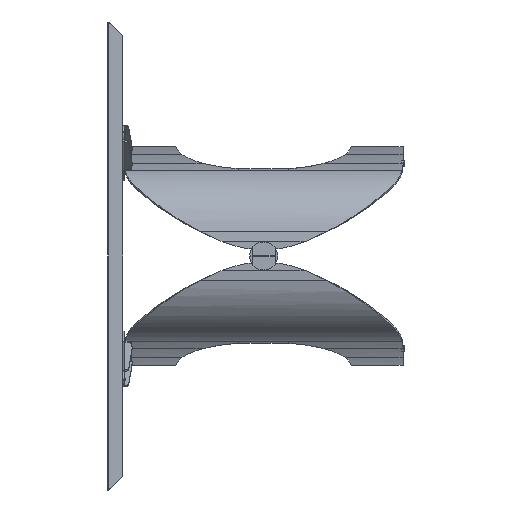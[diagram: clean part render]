
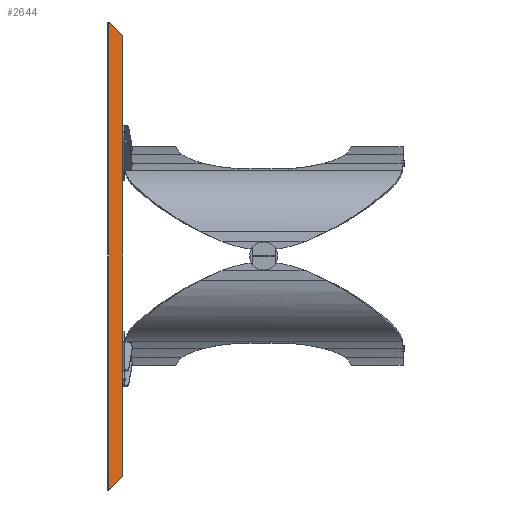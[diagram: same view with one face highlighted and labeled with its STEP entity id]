
A CAD part, left-side view. The second image highlights one B-rep face of the part: STEP entity #2644.
In plain terms, the highlighted planar face has unit normal (-0.707, -0.707, 0).
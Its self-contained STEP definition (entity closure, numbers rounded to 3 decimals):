
#20 = DIRECTION ( 'NONE',  ( 0., 0., 1. ) ) ;
#512 = CARTESIAN_POINT ( 'NONE',  ( -1500., 35., -596.344 ) ) ;
#962 = AXIS2_PLACEMENT_3D ( 'NONE', #20401, #1770, #1366 ) ;
#1366 = DIRECTION ( 'NONE',  ( 0., 0., 1. ) ) ;
#1770 = DIRECTION ( 'NONE',  ( 0.707, 0.707, 0. ) ) ;
#1853 = CARTESIAN_POINT ( 'NONE',  ( -1498.536, 33.536, 598.536 ) ) ;
#1957 = CARTESIAN_POINT ( 'NONE',  ( -1500., 35., -600. ) ) ;
#2269 = CARTESIAN_POINT ( 'NONE',  ( -1500., 35., 595. ) ) ;
#2644 = ADVANCED_FACE ( 'NONE', ( #20800 ), #3434, .F. ) ;
#2844 = CARTESIAN_POINT ( 'NONE',  ( -1498.536, 33.536, 598.536 ) ) ;
#3175 = CARTESIAN_POINT ( 'NONE',  ( -1100., -365., 200. ) ) ;
#3434 = PLANE ( 'NONE',  #962 ) ;
#3993 = LINE ( 'NONE', #13041, #26552 ) ;
#6043 = VECTOR ( 'NONE', #20, 1000. ) ;
#6218 = VECTOR ( 'NONE', #13452, 1000. ) ;
#6302 = CARTESIAN_POINT ( 'NONE',  ( -1500., 35., 595. ) ) ;
#6547 = ORIENTED_EDGE ( 'NONE', *, *, #15464, .F. ) ;
#6728 = CARTESIAN_POINT ( 'NONE',  ( -1498.536, 33.536, -598.536 ) ) ;
#6862 =( BOUNDED_CURVE ( )  B_SPLINE_CURVE ( 3, ( #9353, #512, #11319, #6728 ),
 .UNSPECIFIED., .F., .T. ) 
 B_SPLINE_CURVE_WITH_KNOTS ( ( 4, 4 ),
 ( 3.142, 3.927 ),
 .UNSPECIFIED. ) 
 CURVE ( )  GEOMETRIC_REPRESENTATION_ITEM ( )  RATIONAL_B_SPLINE_CURVE ( ( 1., 0.949, 0.949, 1. ) ) 
 REPRESENTATION_ITEM ( '' )  );
#7236 = EDGE_LOOP ( 'NONE', ( #10069, #13715, #19850, #23378, #6547, #25771 ) ) ;
#8539 = EDGE_CURVE ( 'NONE', #22648, #17445, #6862, .T. ) ;
#9108 = CARTESIAN_POINT ( 'NONE',  ( -1465.293, 0.293, 565. ) ) ;
#9353 = CARTESIAN_POINT ( 'NONE',  ( -1500., 35., -595. ) ) ;
#10069 = ORIENTED_EDGE ( 'NONE', *, *, #17597, .T. ) ;
#10552 = LINE ( 'NONE', #1957, #6043 ) ;
#11319 = CARTESIAN_POINT ( 'NONE',  ( -1499.486, 34.486, -597.585 ) ) ;
#11355 = DIRECTION ( 'NONE',  ( 0., 0., 1. ) ) ;
#11871 = VERTEX_POINT ( 'NONE', #26739 ) ;
#12598 = VECTOR ( 'NONE', #11355, 1000. ) ;
#13041 = CARTESIAN_POINT ( 'NONE',  ( -1500., 35., -600. ) ) ;
#13452 = DIRECTION ( 'NONE',  ( 0.577, -0.577, -0.577 ) ) ;
#13715 = ORIENTED_EDGE ( 'NONE', *, *, #25337, .T. ) ;
#13755 = VERTEX_POINT ( 'NONE', #2844 ) ;
#15464 = EDGE_CURVE ( 'NONE', #22648, #21253, #10552, .T. ) ;
#16290 = CARTESIAN_POINT ( 'NONE',  ( -1500., 35., -595. ) ) ;
#17445 = VERTEX_POINT ( 'NONE', #18485 ) ;
#17597 = EDGE_CURVE ( 'NONE', #17445, #23289, #3993, .T. ) ;
#18485 = CARTESIAN_POINT ( 'NONE',  ( -1498.536, 33.536, -598.536 ) ) ;
#18584 = CARTESIAN_POINT ( 'NONE',  ( -1465.293, 0.293, -565.293 ) ) ;
#18673 = CARTESIAN_POINT ( 'NONE',  ( -1499.486, 34.486, 597.585 ) ) ;
#19146 =( BOUNDED_CURVE ( )  B_SPLINE_CURVE ( 3, ( #1853, #18673, #25179, #2269 ),
 .UNSPECIFIED., .F., .T. ) 
 B_SPLINE_CURVE_WITH_KNOTS ( ( 4, 4 ),
 ( 2.356, 3.142 ),
 .UNSPECIFIED. ) 
 CURVE ( )  GEOMETRIC_REPRESENTATION_ITEM ( )  RATIONAL_B_SPLINE_CURVE ( ( 1., 0.949, 0.949, 1. ) ) 
 REPRESENTATION_ITEM ( '' )  );
#19419 = EDGE_CURVE ( 'NONE', #13755, #11871, #24294, .T. ) ;
#19850 = ORIENTED_EDGE ( 'NONE', *, *, #19419, .F. ) ;
#19970 = LINE ( 'NONE', #9108, #12598 ) ;
#20140 = EDGE_CURVE ( 'NONE', #13755, #21253, #19146, .T. ) ;
#20401 = CARTESIAN_POINT ( 'NONE',  ( -1500., 35., -600. ) ) ;
#20800 = FACE_OUTER_BOUND ( 'NONE', #7236, .T. ) ;
#21253 = VERTEX_POINT ( 'NONE', #6302 ) ;
#22648 = VERTEX_POINT ( 'NONE', #16290 ) ;
#23289 = VERTEX_POINT ( 'NONE', #18584 ) ;
#23340 = DIRECTION ( 'NONE',  ( 0.577, -0.577, 0.577 ) ) ;
#23378 = ORIENTED_EDGE ( 'NONE', *, *, #20140, .T. ) ;
#24294 = LINE ( 'NONE', #3175, #6218 ) ;
#25179 = CARTESIAN_POINT ( 'NONE',  ( -1500., 35., 596.344 ) ) ;
#25337 = EDGE_CURVE ( 'NONE', #23289, #11871, #19970, .T. ) ;
#25771 = ORIENTED_EDGE ( 'NONE', *, *, #8539, .T. ) ;
#26552 = VECTOR ( 'NONE', #23340, 1000. ) ;
#26739 = CARTESIAN_POINT ( 'NONE',  ( -1465.293, 0.293, 565.293 ) ) ;
